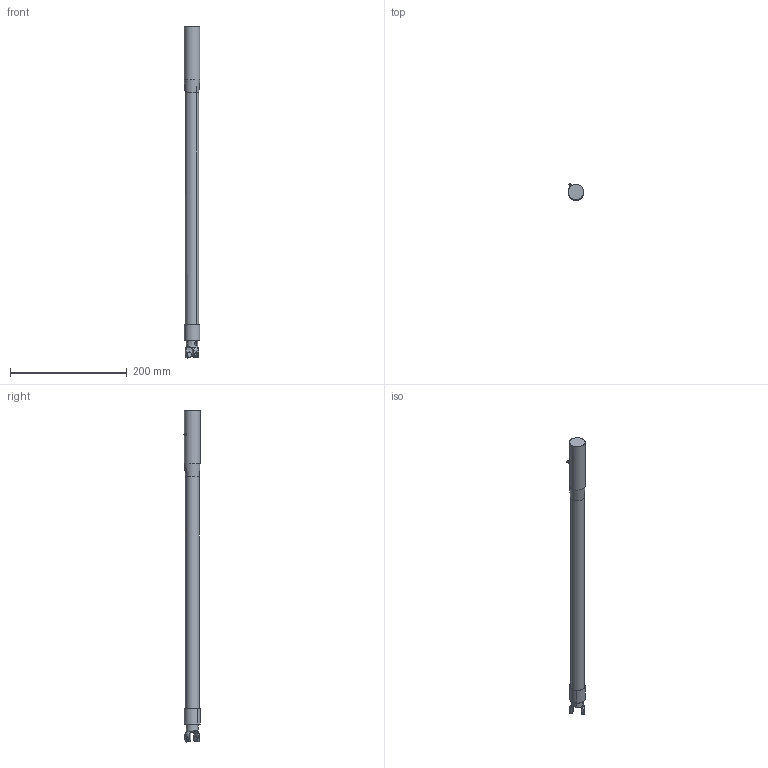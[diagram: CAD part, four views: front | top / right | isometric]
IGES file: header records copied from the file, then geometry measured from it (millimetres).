
Start section: SolidWorks IGES file using analytic representation for surfaces
Global section: file name: C:\Users\SELUHAA\Desktop\Work items\545792\IGES\IRB360_X-800-STD-4D_rev03_IGES_J\IRB360_X-800-STD-4D_rev03_ML_CAD.IGS; native system: SolidWorks 2022; preprocessor: SolidWorks 2022; author: SELUHAA; date: 231128.124717; units: millimetre
Bounding box: 27 x 27.86 x 568.8 mm (x, y, z)
Surface area: 48260.1 mm2 (no closed solid volume)
Topology: 0 solids, 0 shells, 99 faces, 1689 edges, 1684 vertices
Faces by surface type: revolution 60, bspline 39
